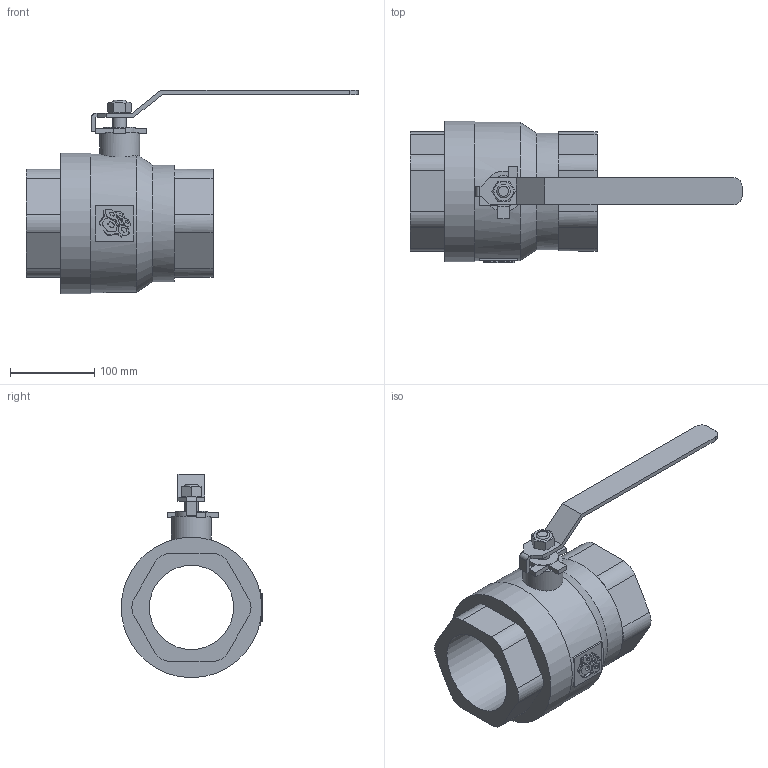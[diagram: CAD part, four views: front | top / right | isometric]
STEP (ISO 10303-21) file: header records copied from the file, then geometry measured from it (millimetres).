
FILE_DESCRIPTION(('STEP AP203'), '1');
FILE_NAME('3D_7014-100-63', '', ('UNSPECIFIED'), ('UNSPECIFIED'), 'C3D Converter', 'C3D Toolkit', '');
FILE_SCHEMA(('CONFIG_CONTROL_DESIGN'));
Length unit declared in the file: millimetre
Bounding box: 394 x 168.1 x 241.41 mm (x, y, z)
Volume: 2271334.2 mm3; surface area: 231664.6 mm2
Topology: 1 solids, 1 shells, 937 faces, 2733 edges, 1819 vertices
Faces by surface type: plane 911, cylinder 22, cone 3, torus 1
Full cylindrical faces by diameter (mm): 16 x1, 37 x1, 47.48 x1, 100 x1, 138.59 x1, 164.254 x1, 166.821 x1
Entity records: 38735 total; most frequent: CARTESIAN_POINT 6355, ORIENTED_EDGE 5444, DIRECTION 4680, EDGE_CURVE 2722, LINE 2604, VECTOR 2604, VERTEX_POINT 1819, AXIS2_PLACEMENT_3D 1038
